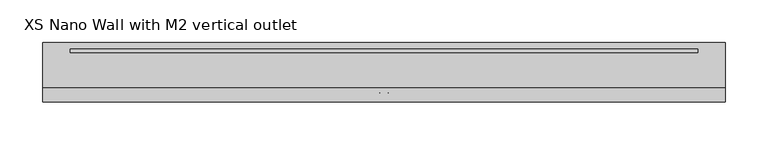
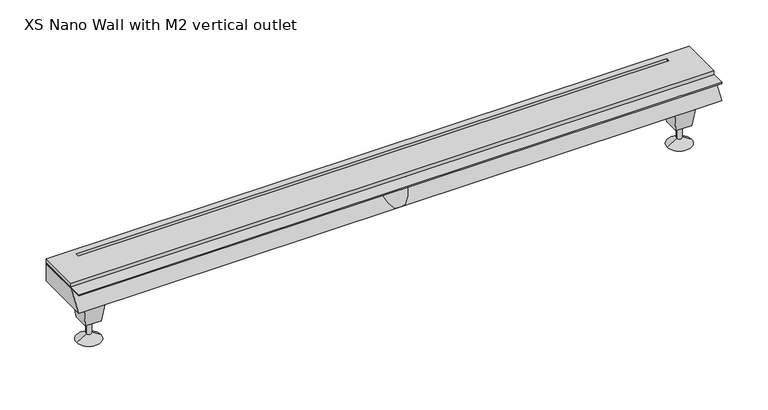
"""IFC4 building model written with IfcOpenShell, lengths in millimetres: sanitary terminal geometry, NLRS_PF_52_UN_XS Nano Wall_Easydrain : XS Nano Wall with M2 vertical outlet."""

from ifc_helpers import new_model, si_unit, frame, origin, place, context, project, spatial, polyline, circle_curve, outline, extrude, faceted_brep, source, transform, mapped, element, save
from ifc_brep_helpers import plane_surface, cylinder_surface, revolved_surface, advanced_brep


def xs_nano_wall_with_m2_vertical_outlet_9d345bf4(model_context):
    return source(origin(), model_context, "Body", "SolidModel", [
        advanced_brep(
        [(370.5, 0.0, -69.0), (364.5, 0.0, -69.0), (367.5, 0.0, -69.0), (370.5, 0.0, -87.5), (364.5, 0.0, -87.5), (382.5, 0.0, -95.0), (352.5, 0.0, -95.0), (367.5, 0.0, -95.0)],
        [
            (0, 1, circle_curve(frame((367.5, 0.0, -69.0), z_axis=(0.0, 0.0, 1.0), x_axis=(-1.0, 0.0, 0.0)), 3.0)),
            (1, 2),
            (2, 0),
            (1, 0, circle_curve(frame((367.5, 0.0, -69.0), z_axis=(0.0, 0.0, 1.0), x_axis=(-1.0, 0.0, 0.0)), 3.0)),
            (3, 4, circle_curve(frame((367.5, 0.0, -87.5), z_axis=(0.0, 0.0, 1.0), x_axis=(-1.0, 0.0, 0.0)), 3.0)),
            (4, 1),
            (0, 3),
            (4, 3, circle_curve(frame((367.5, 0.0, -87.5), z_axis=(0.0, 0.0, 1.0), x_axis=(-1.0, 0.0, 0.0)), 3.0)),
            (5, 6, circle_curve(frame((367.5, 0.0, -95.0), z_axis=(0.0, 0.0, 1.0), x_axis=(-1.0, 0.0, 0.0)), 15.0)),
            (6, 4),
            (3, 5),
            (6, 5, circle_curve(frame((367.5, 0.0, -95.0), z_axis=(0.0, 0.0, 1.0), x_axis=(-1.0, 0.0, 0.0)), 15.0)),
            (7, 6),
            (5, 7),
        ],
        [
            plane_surface(frame((367.5, 0.0, -69.0), z_axis=(0.0, 0.0, 1.0), x_axis=(-1.0, 0.0, 0.0))),
            cylinder_surface(frame((367.5, 0.0, -103.1782032), z_axis=(0.0, 0.0, -1.0), x_axis=(-1.0, 0.0, 0.0)), 3.0),
            revolved_surface(polyline([(364.5, 0.0, -87.5), (352.5, 0.0, -95.0)]), (367.5, 0.0, -103.1782032), (0.0, 0.0, -1.0)),
            plane_surface(frame((367.5, 0.0, -95.0), z_axis=(0.0, 0.0, -1.0), x_axis=(-1.0, 0.0, 0.0))),
        ],
        [
            (0, [[1, 2, 3]]),
            (0, [[4, -3, -2]]),
            (1, [[5, 6, -1, 7]]),
            (1, [[8, -7, -4, -6]]),
            (2, [[9, 10, -5, 11]]),
            (2, [[12, -11, -8, -10]]),
            (3, [[13, -9, 14]]),
            (3, [[-14, -12, -13]]),
        ],
    ),
        faceted_brep([(357.5, 10.0, -69.0), (377.5, 10.0, -69.0), (377.5, -10.0, -69.0), (357.5, -10.0, -69.0), (352.5, 15.0, -29.0), (352.5, -15.0, -29.0), (382.5, -15.0, -29.0), (382.5, 15.0, -29.0)], [[[0, 1, 2, 3]], [[4, 5, 6, 7]], [[5, 4, 0, 3]], [[6, 5, 3, 2]], [[7, 6, 2, 1]], [[4, 7, 1, 0]]]),
        advanced_brep(
        [(-364.5, 0.0, -69.0), (-370.5, 0.0, -69.0), (-367.5, 0.0, -69.0), (-364.5, 0.0, -87.5), (-370.5, 0.0, -87.5), (-352.5, 0.0, -95.0), (-382.5, 0.0, -95.0), (-367.5, 0.0, -95.0)],
        [
            (0, 1, circle_curve(frame((-367.5, 0.0, -69.0), z_axis=(0.0, 0.0, 1.0), x_axis=(-1.0, 0.0, 0.0)), 3.0)),
            (1, 2),
            (2, 0),
            (1, 0, circle_curve(frame((-367.5, 0.0, -69.0), z_axis=(0.0, 0.0, 1.0), x_axis=(-1.0, 0.0, 0.0)), 3.0)),
            (3, 4, circle_curve(frame((-367.5, 0.0, -87.5), z_axis=(0.0, 0.0, 1.0), x_axis=(-1.0, 0.0, 0.0)), 3.0)),
            (4, 1),
            (0, 3),
            (4, 3, circle_curve(frame((-367.5, 0.0, -87.5), z_axis=(0.0, 0.0, 1.0), x_axis=(-1.0, 0.0, 0.0)), 3.0)),
            (5, 6, circle_curve(frame((-367.5, 0.0, -95.0), z_axis=(0.0, 0.0, 1.0), x_axis=(-1.0, 0.0, 0.0)), 15.0)),
            (6, 4),
            (3, 5),
            (6, 5, circle_curve(frame((-367.5, 0.0, -95.0), z_axis=(0.0, 0.0, 1.0), x_axis=(-1.0, 0.0, 0.0)), 15.0)),
            (7, 6),
            (5, 7),
        ],
        [
            plane_surface(frame((-367.5, 0.0, -69.0), z_axis=(0.0, 0.0, 1.0), x_axis=(-1.0, 0.0, 0.0))),
            cylinder_surface(frame((-367.5, 0.0, -103.1782032), z_axis=(0.0, 0.0, -1.0), x_axis=(-1.0, 0.0, 0.0)), 3.0),
            revolved_surface(polyline([(-370.5, 0.0, -87.5), (-382.5, 0.0, -95.0)]), (-367.5, 0.0, -103.1782032), (0.0, 0.0, -1.0)),
            plane_surface(frame((-367.5, 0.0, -95.0), z_axis=(0.0, 0.0, -1.0), x_axis=(-1.0, 0.0, 0.0))),
        ],
        [
            (0, [[1, 2, 3]]),
            (0, [[4, -3, -2]]),
            (1, [[5, 6, -1, 7]]),
            (1, [[8, -7, -4, -6]]),
            (2, [[9, 10, -5, 11]]),
            (2, [[12, -11, -8, -10]]),
            (3, [[13, -9, 14]]),
            (3, [[-14, -12, -13]]),
        ],
    ),
        faceted_brep([(-377.5, 10.0, -69.0), (-357.5, 10.0, -69.0), (-357.5, -10.0, -69.0), (-377.5, -10.0, -69.0), (-382.5, 15.0, -29.0), (-382.5, -15.0, -29.0), (-352.5, -15.0, -29.0), (-352.5, 15.0, -29.0)], [[[0, 1, 2, 3]], [[4, 5, 6, 7]], [[5, 4, 0, 3]], [[6, 5, 3, 2]], [[7, 6, 2, 1]], [[4, 7, 1, 0]]]),
        extrude(outline(polyline([(400.0, 35.0), (400.0, -18.0), (-400.0, -18.0), (-400.0, 35.0), (400.0, 35.0)]), holes=[polyline([(-367.5, 27.0), (-367.5, 23.0), (367.5, 23.0), (367.5, 27.0), (-367.5, 27.0)])]), frame((0.0, 0.0, -5.0), z_axis=(0.0, 0.0, 1.0), x_axis=(1.0, 0.0, 0.0)), (0.0, 0.0, 1.0), 5.0),
        extrude(outline(polyline([(400.0, 35.0), (400.0, -35.0), (-400.0, -35.0), (-400.0, 35.0), (400.0, 35.0)])), frame((0.0, 0.0, -6.4659054), z_axis=(0.0, 0.0, 1.0), x_axis=(1.0, 0.0, 0.0)), (0.0, 0.0, 1.0), 1.4659054),
        advanced_brep(
        [(-35.0, 0.0, -29.0), (35.0, 0.0, -29.0), (-25.0, 0.0, -5.0), (25.0, 0.0, -5.0)],
        [
            (0, 1, circle_curve(frame((0.0, 0.0, -29.0), z_axis=(0.0, 0.0, -1.0), x_axis=(-1.0, 0.0, 0.0)), 35.0)),
            (1, 0, circle_curve(frame((0.0, 0.0, -29.0), z_axis=(0.0, 0.0, -1.0), x_axis=(1.0, 0.0, 0.0)), 35.0)),
            (2, 3, circle_curve(frame((0.0, 0.0, -5.0), z_axis=(0.0, 0.0, 1.0), x_axis=(1.0, 0.0, 0.0)), 25.0)),
            (3, 2, circle_curve(frame((0.0, 0.0, -5.0), z_axis=(0.0, 0.0, 1.0), x_axis=(-1.0, 0.0, 0.0)), 25.0)),
            (2, 0),
            (1, 3),
        ],
        [
            plane_surface(frame((0.0, 0.0, -29.0), z_axis=(0.0, 0.0, -1.0), x_axis=(0.0, -1.0, 0.0))),
            plane_surface(frame((0.0, 0.0, -5.0), z_axis=(0.0, 0.0, 1.0), x_axis=(0.0, -1.0, 0.0))),
            revolved_surface(polyline([(-25.0, 0.0, -5.0), (-35.0, 0.0, -29.0)]), (0.0, 0.0, 55.0), (0.0, 0.0, -1.0)),
            revolved_surface(polyline([(25.0, 0.0, -5.0), (35.0, 0.0, -29.0)]), (0.0, 0.0, 55.0), (0.0, 0.0, -1.0)),
        ],
        [
            (0, [[1, 2]]),
            (1, [[3, 4]]),
            (2, [[-3, 5, -2, 6]]),
            (3, [[-4, -6, -1, -5]]),
        ],
    ),
        extrude(outline(polyline([(-18.0, -5.0), (35.0, -5.0), (35.0, -29.0), (-35.0, -29.0), (-18.0, -5.0)])), frame((-400.0, 0.0, 0.0), z_axis=(1.0, 0.0, 0.0), x_axis=(0.0, 1.0, 0.0)), (0.0, 0.0, 1.0), 800.0),
    ])


if __name__ == "__main__":
    model = new_model("IFC4")
    model_context = context("Model", 3, world=origin())
    ifc_project = project(units=[si_unit("LENGTHUNIT", "METRE", prefix="MILLI")], contexts=[model_context])
    site = spatial("IfcSite", under=ifc_project)
    building = spatial("IfcBuilding", under=site)
    placement = place(None, origin())
    xs_nano_wall_with_m2_vertical_outlet_shape = xs_nano_wall_with_m2_vertical_outlet_9d345bf4(model_context)
    element("IfcSanitaryTerminal", 1, ObjectType="NLRS_PF_52_UN_XS Nano Wall_Easydrain : XS Nano Wall with M2 vertical outlet", at=placement, inside=building, context=model_context, shape_type="MappedRepresentation", body=[
        mapped(xs_nano_wall_with_m2_vertical_outlet_shape, transform((0.0, 0.0, 0.0), x_axis=(1.0, 0.0, 0.0), y_axis=(0.0, 1.0, 0.0), z_axis=(0.0, 0.0, 1.0))),
    ])
    save(model, "model.ifc")
